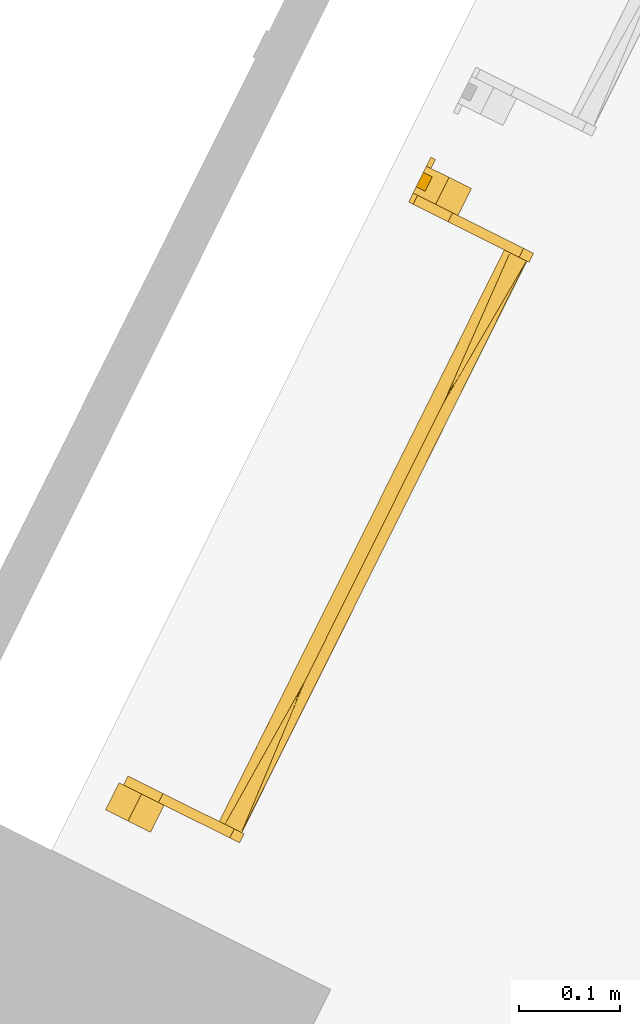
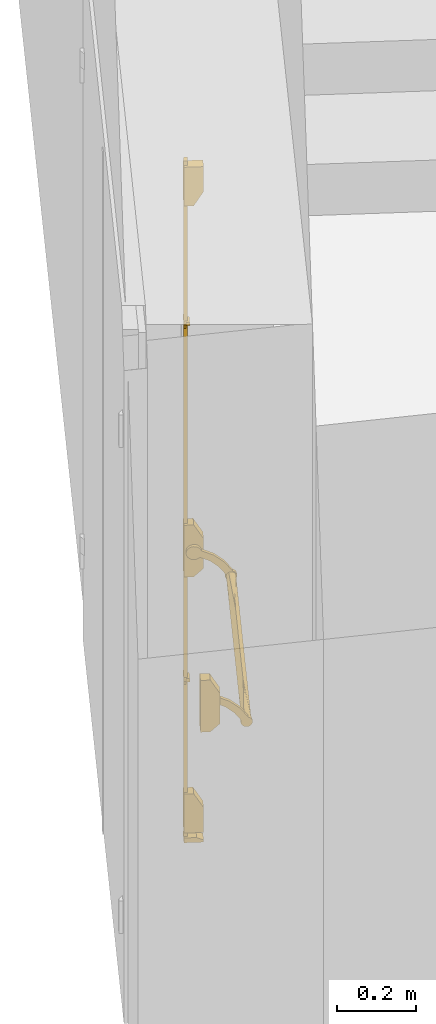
# One storey, part 30 of 91: 1 door.
"""IFC2X3 building model written with IfcOpenShell, lengths in metres."""

from ifc_helpers import new_model, entity, si_unit, converted_unit, derived_unit, direction, frame, origin, place, context, subcontext, project, spatial, faceted_brep, source, transform, mapped, material, material_list, type_object, type_shapes, element, save


model = new_model("IFC2X3")

# Units and contexts
model_context = context("Model", 3, precision=1e-05, world=origin(), true_north=direction((0.894925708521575, 0.446215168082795)))
context_of_model = context(None, 3, precision=1e-05, world=origin(), true_north=direction((0.894925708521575, 0.446215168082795)))
body_context = subcontext(model_context, "Body", "Model", "MODEL_VIEW")
ifc_project = project(units=[si_unit("LENGTHUNIT", "METRE"), si_unit("AREAUNIT", "SQUARE_METRE"), si_unit("VOLUMEUNIT", "CUBIC_METRE"), converted_unit("PLANEANGLEUNIT", "DEGREE", entity("IfcRatioMeasure", 0.0174532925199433), si_unit("PLANEANGLEUNIT", "RADIAN"), dimensions=[0, 0, 0, 0, 0, 0, 0]), si_unit("MASSUNIT", "GRAM", prefix="KILO"), si_unit("TIMEUNIT", "SECOND"), si_unit("FREQUENCYUNIT", "HERTZ"), si_unit("THERMODYNAMICTEMPERATUREUNIT", "DEGREE_CELSIUS"), derived_unit("THERMALTRANSMITTANCEUNIT", [(si_unit("MASSUNIT", "GRAM", prefix="KILO"), 1), (si_unit("THERMODYNAMICTEMPERATUREUNIT", "KELVIN"), -1), (si_unit("TIMEUNIT", "SECOND"), -3)]), derived_unit("VOLUMETRICFLOWRATEUNIT", [(si_unit("LENGTHUNIT", "METRE"), 3), (si_unit("TIMEUNIT", "SECOND"), -1)]), si_unit("ELECTRICCURRENTUNIT", "AMPERE"), si_unit("ELECTRICVOLTAGEUNIT", "VOLT"), si_unit("POWERUNIT", "WATT"), si_unit("FORCEUNIT", "NEWTON", prefix="KILO"), si_unit("ILLUMINANCEUNIT", "LUX"), si_unit("LUMINOUSFLUXUNIT", "LUMEN"), si_unit("LUMINOUSINTENSITYUNIT", "CANDELA"), si_unit("PRESSUREUNIT", "PASCAL")], contexts=[model_context, context_of_model])

# Site, building, storey
site_placement = place(None, frame((218.228324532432, 584.720189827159, 0.0), z_axis=(0.0, 0.0, 1.0), x_axis=(0.446215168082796, 0.894925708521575, 0.0)))
site = spatial("IfcSite", under=ifc_project, at=site_placement, Name="Default", CompositionType="ELEMENT")
building_placement = place(site_placement, origin())
building = spatial("IfcBuilding", under=site, at=building_placement, CompositionType="ELEMENT")
storey_placement = place(building_placement, origin())
storey = spatial("IfcBuildingStorey", under=building, at=storey_placement, Name="0 - Piano Terra", CompositionType="ELEMENT", Elevation=0.0)

# Door
ifc_material_1 = material(Name="Peinture - Gris fonçé")
ifc_material_2 = material(Name="Peinture - Gris")
ifc_material_list_1 = material_list([ifc_material_1, ifc_material_2])
ifc_material_list_2 = material_list([ifc_material_1, ifc_material_2])
door_style = type_object("IfcDoorStyle", Name="BarreAP", ConstructionType="NOTDEFINED", OperationType="NOTDEFINED", ParameterTakesPrecedence=False, Sizeable=False, material=ifc_material_list_2)
shared_shape = source(origin(), body_context, "Body", "Brep", [
    faceted_brep([(0.660000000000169, 0.110048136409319, 0.817251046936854), (0.660000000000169, 0.112636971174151, 0.815264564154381), (0.660000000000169, 0.115651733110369, 0.814015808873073), (0.660000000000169, 0.118886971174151, 0.813589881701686), (0.660000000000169, 0.122122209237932, 0.814015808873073), (0.660000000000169, 0.125136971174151, 0.815264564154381), (0.660000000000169, 0.127725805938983, 0.817251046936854), (0.660000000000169, 0.129712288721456, 0.819839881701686), (0.660000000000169, 0.130961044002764, 0.822854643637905), (0.660000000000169, 0.131386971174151, 0.826089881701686), (0.660000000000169, 0.130961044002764, 0.829325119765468), (0.660000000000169, 0.129712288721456, 0.832339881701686), (0.660000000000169, 0.127725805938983, 0.834928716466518), (0.660000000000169, 0.125136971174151, 0.836915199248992), (0.660000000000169, 0.122122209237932, 0.838163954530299), (0.660000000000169, 0.118886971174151, 0.838589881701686), (0.660000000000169, 0.115651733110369, 0.838163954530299), (0.660000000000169, 0.112636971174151, 0.836915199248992), (0.660000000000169, 0.110048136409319, 0.834928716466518), (0.660000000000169, 0.108061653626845, 0.832339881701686), (0.660000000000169, 0.106812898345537, 0.829325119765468), (0.660000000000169, 0.106386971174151, 0.826089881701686), (0.660000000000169, 0.106812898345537, 0.822854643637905), (0.660000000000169, 0.108061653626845, 0.819839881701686), (0.0250000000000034, 0.115651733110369, 0.838163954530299), (0.0250000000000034, 0.118886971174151, 0.838589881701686), (0.0250000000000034, 0.122122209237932, 0.838163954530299), (0.0250000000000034, 0.125136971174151, 0.836915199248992), (0.0250000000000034, 0.127725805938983, 0.834928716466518), (0.0250000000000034, 0.129712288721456, 0.832339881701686), (0.0250000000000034, 0.130961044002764, 0.829325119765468), (0.0250000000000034, 0.131386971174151, 0.826089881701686), (0.0250000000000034, 0.130961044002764, 0.822854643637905), (0.0250000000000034, 0.129712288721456, 0.819839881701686), (0.0250000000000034, 0.127725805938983, 0.817251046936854), (0.0250000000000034, 0.125136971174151, 0.815264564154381), (0.0250000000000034, 0.122122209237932, 0.814015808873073), (0.0250000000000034, 0.118886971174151, 0.813589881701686), (0.0250000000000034, 0.115651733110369, 0.814015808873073), (0.0250000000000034, 0.112636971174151, 0.815264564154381), (0.0250000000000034, 0.110048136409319, 0.817251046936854), (0.0250000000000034, 0.108061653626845, 0.819839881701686), (0.0250000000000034, 0.106812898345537, 0.822854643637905), (0.0250000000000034, 0.106386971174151, 0.826089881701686), (0.0250000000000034, 0.106812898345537, 0.829325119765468), (0.0250000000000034, 0.108061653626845, 0.832339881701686), (0.0250000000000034, 0.110048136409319, 0.834928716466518), (0.0250000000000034, 0.112636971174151, 0.836915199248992), (0.187822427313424, 0.117501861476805, 0.813666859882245), (0.148450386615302, 0.131386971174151, 0.826089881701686), (0.342500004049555, 0.117635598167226, 0.813652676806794), (0.413099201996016, 0.106386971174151, 0.826089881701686), (0.342500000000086, 0.106386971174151, 0.826089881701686), (0.271900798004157, 0.106386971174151, 0.826089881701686), (0.497177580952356, 0.117501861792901, 0.813666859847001), (0.53654961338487, 0.131386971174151, 0.826089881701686), (0.342500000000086, 0.131386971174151, 0.826089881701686), (0.413099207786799, 0.131386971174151, 0.826089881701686), (0.536549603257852, 0.106386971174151, 0.826089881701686), (0.14845039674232, 0.106386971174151, 0.826089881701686), (0.271900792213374, 0.131386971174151, 0.826089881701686), (0.497177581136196, 0.120272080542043, 0.83851290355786), (0.187822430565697, 0.120272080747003, 0.838512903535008), (0.342500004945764, 0.120138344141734, 0.838527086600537)], [[[0, 1, 2, 3, 4, 5, 6, 7, 8, 9, 10, 11, 12, 13, 14, 15, 16, 17, 18, 19, 20, 21, 22, 23]], [[24, 25, 26, 27, 28, 29, 30, 31, 32, 33, 34, 35, 36, 37, 38, 39, 40, 41, 42, 43, 44, 45, 46, 47]], [[38, 48, 39]], [[35, 48, 36]], [[34, 49, 35]], [[40, 39, 48]], [[50, 51, 52, 53]], [[2, 54, 3]], [[7, 6, 55]], [[34, 33, 49]], [[5, 54, 55]], [[48, 38, 37]], [[32, 49, 33]], [[31, 49, 32]], [[55, 9, 8]], [[56, 50, 48]], [[50, 56, 54]], [[54, 56, 57, 55]], [[54, 23, 22]], [[8, 7, 55]], [[36, 48, 37]], [[48, 41, 40]], [[41, 48, 42]], [[53, 42, 48]], [[53, 48, 50]], [[22, 21, 58, 51]], [[42, 53, 59, 43]], [[48, 49, 60, 56]], [[5, 55, 6]], [[54, 5, 4]], [[51, 54, 22]], [[54, 4, 3]], [[1, 0, 54]], [[54, 2, 1]], [[48, 35, 49]], [[54, 51, 50]], [[54, 0, 23]], [[61, 11, 10]], [[62, 47, 59]], [[57, 61, 10]], [[24, 47, 62]], [[52, 63, 62]], [[61, 12, 11]], [[58, 19, 18]], [[46, 45, 59]], [[26, 25, 62]], [[17, 61, 58]], [[44, 43, 59]], [[58, 21, 20]], [[14, 61, 15]], [[58, 20, 19]], [[61, 63, 52]], [[24, 62, 25]], [[59, 47, 46]], [[62, 28, 27]], [[61, 52, 51, 58]], [[63, 57, 56, 60]], [[44, 59, 45]], [[28, 62, 29]], [[29, 62, 30]], [[60, 30, 62]], [[60, 62, 63]], [[10, 9, 55, 57]], [[30, 60, 49, 31]], [[26, 62, 27]], [[17, 58, 18]], [[17, 16, 61]], [[61, 16, 15]], [[61, 13, 12]], [[13, 61, 14]], [[61, 57, 63]], [[62, 59, 53, 52]]]),
    faceted_brep([(0.660000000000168, 0.0117100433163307, 0.885054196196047), (0.660000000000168, 0.00829982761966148, 0.888995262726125), (0.660000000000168, 0.0060236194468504, 0.893683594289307), (0.660000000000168, 0.00503598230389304, 0.898800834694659), (0.660000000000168, 0.00540398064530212, 0.903999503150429), (0.660000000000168, 0.00710262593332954, 0.908926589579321), (0.660000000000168, 0.0100165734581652, 0.913247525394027), (0.660000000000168, 0.0139479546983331, 0.916668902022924), (0.660000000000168, 0.0186298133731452, 0.918958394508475), (0.660000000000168, 0.0237442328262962, 0.919960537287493), (0.660000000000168, 0.0289439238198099, 0.919607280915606), (0.660000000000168, 0.0338758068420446, 0.91792261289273), (0.660000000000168, 0.0382049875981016, 0.915020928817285), (0.660000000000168, 0.041637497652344, 0.911099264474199), (0.660000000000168, 0.0439402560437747, 0.906423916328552), (0.660000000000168, 0.0755453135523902, 0.891366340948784), (0.660000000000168, 0.10242643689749, 0.868938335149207), (0.660000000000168, 0.122902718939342, 0.840542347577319), (0.660000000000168, 0.126402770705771, 0.839071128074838), (0.660000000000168, 0.129421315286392, 0.836768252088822), (0.660000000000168, 0.13176496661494, 0.833781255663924), (0.660000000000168, 0.133283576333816, 0.830301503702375), (0.660000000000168, 0.133879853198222, 0.826551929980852), (0.660000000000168, 0.133515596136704, 0.822772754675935), (0.660000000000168, 0.132214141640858, 0.819206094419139), (0.660000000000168, 0.130058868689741, 0.816080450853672), (0.660000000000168, 0.127187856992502, 0.813596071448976), (0.660000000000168, 0.123785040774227, 0.811912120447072), (0.660000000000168, 0.120068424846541, 0.811136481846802), (0.660000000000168, 0.11627611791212, 0.811318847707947), (0.660000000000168, 0.112651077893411, 0.812447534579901), (0.660000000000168, 0.109425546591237, 0.814450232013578), (0.660000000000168, 0.106806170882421, 0.817198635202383), (0.660000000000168, 0.104960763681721, 0.820516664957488), (0.660000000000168, 0.10400755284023, 0.824191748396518), (0.660000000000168, 0.104007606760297, 0.827988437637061), (0.660000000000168, 0.10496092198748, 0.831663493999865), (0.660000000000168, 0.0879705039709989, 0.855114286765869), (0.660000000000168, 0.065856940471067, 0.873811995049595), (0.660000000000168, 0.039908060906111, 0.886667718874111), (0.660000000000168, 0.0359573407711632, 0.883268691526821), (0.660000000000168, 0.0312625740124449, 0.881005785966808), (0.660000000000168, 0.0261425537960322, 0.880032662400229), (0.660000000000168, 0.0209449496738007, 0.880415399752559), (0.660000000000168, 0.0160226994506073, 0.88212800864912), (0.670000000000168, 0.133515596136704, 0.822772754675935), (0.670000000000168, 0.133879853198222, 0.826551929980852), (0.670000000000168, 0.133283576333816, 0.830301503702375), (0.670000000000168, 0.13176496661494, 0.833781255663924), (0.670000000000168, 0.129421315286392, 0.836768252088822), (0.670000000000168, 0.126402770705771, 0.839071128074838), (0.670000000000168, 0.122902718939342, 0.840542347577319), (0.670000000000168, 0.10242643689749, 0.868938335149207), (0.670000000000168, 0.0755453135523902, 0.891366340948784), (0.670000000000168, 0.0439402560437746, 0.906423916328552), (0.670000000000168, 0.041637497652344, 0.911099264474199), (0.670000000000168, 0.0382049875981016, 0.915020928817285), (0.670000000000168, 0.0338758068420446, 0.91792261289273), (0.670000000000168, 0.0289439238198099, 0.919607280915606), (0.670000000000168, 0.0237442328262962, 0.919960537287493), (0.670000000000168, 0.0186298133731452, 0.918958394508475), (0.670000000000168, 0.0139479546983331, 0.916668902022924), (0.670000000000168, 0.0100165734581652, 0.913247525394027), (0.670000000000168, 0.00710262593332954, 0.908926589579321), (0.670000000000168, 0.00540398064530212, 0.903999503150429), (0.670000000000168, 0.00503598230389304, 0.898800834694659), (0.670000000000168, 0.0060236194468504, 0.893683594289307), (0.670000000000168, 0.00829982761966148, 0.888995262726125), (0.670000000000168, 0.0117100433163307, 0.885054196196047), (0.670000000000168, 0.0160226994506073, 0.88212800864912), (0.670000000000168, 0.0209449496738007, 0.880415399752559), (0.670000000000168, 0.0261425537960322, 0.880032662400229), (0.670000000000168, 0.0312625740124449, 0.881005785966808), (0.670000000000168, 0.0359573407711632, 0.883268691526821), (0.670000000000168, 0.039908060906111, 0.886667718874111), (0.670000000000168, 0.065856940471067, 0.873811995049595), (0.670000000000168, 0.0879705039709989, 0.855114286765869), (0.670000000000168, 0.10496092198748, 0.831663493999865), (0.670000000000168, 0.104007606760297, 0.827988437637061), (0.670000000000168, 0.10400755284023, 0.824191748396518), (0.670000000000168, 0.104960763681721, 0.820516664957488), (0.670000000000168, 0.106806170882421, 0.817198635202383), (0.670000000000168, 0.109425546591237, 0.814450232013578), (0.670000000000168, 0.112651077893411, 0.812447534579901), (0.670000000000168, 0.11627611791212, 0.811318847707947), (0.670000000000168, 0.120068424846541, 0.811136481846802), (0.670000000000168, 0.123785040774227, 0.811912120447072), (0.670000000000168, 0.127187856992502, 0.813596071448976), (0.670000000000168, 0.130058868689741, 0.816080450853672), (0.670000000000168, 0.132214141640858, 0.819206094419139)], [[[0, 1, 2, 3, 4, 5, 6, 7, 8, 9, 10, 11, 12, 13, 14, 15, 16, 17, 18, 19, 20, 21, 22, 23, 24, 25, 26, 27, 28, 29, 30, 31, 32, 33, 34, 35, 36, 37, 38, 39, 40, 41, 42, 43, 44]], [[45, 46, 47, 48, 49, 50, 51, 52, 53, 54, 55, 56, 57, 58, 59, 60, 61, 62, 63, 64, 65, 66, 67, 68, 69, 70, 71, 72, 73, 74, 75, 76, 77, 78, 79, 80, 81, 82, 83, 84, 85, 86, 87, 88, 89]], [[54, 14, 13, 55]], [[56, 12, 11, 57]], [[56, 55, 13, 12]], [[58, 57, 11, 10]], [[60, 59, 9, 8]], [[62, 61, 7, 6]], [[7, 61, 60, 8]], [[9, 59, 58, 10]], [[62, 6, 5, 63]], [[4, 64, 63, 5]], [[64, 4, 3, 65]], [[66, 2, 1, 67]], [[66, 65, 3, 2]], [[68, 67, 1, 0]], [[70, 69, 44, 43]], [[72, 71, 42, 41]], [[42, 71, 70, 43]], [[44, 69, 68, 0]], [[72, 41, 40, 73]], [[40, 39, 74, 73]], [[39, 38, 75, 74]], [[38, 37, 76, 75]], [[37, 36, 77, 76]], [[77, 36, 35, 78]], [[79, 34, 33, 80]], [[79, 78, 35, 34]], [[81, 80, 33, 32]], [[83, 82, 31, 30]], [[85, 84, 29, 28]], [[29, 84, 83, 30]], [[31, 82, 81, 32]], [[85, 28, 27, 86]], [[27, 26, 87, 86]], [[87, 26, 25, 88]], [[89, 24, 23, 45]], [[89, 88, 25, 24]], [[46, 45, 23, 22]], [[48, 47, 21, 20]], [[50, 49, 19, 18]], [[19, 49, 48, 20]], [[21, 47, 46, 22]], [[50, 18, 17, 51]], [[16, 52, 51, 17]], [[16, 15, 53, 52]], [[14, 54, 53, 15]]]),
    faceted_brep([(0.025, 0.109425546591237, 0.81445023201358), (0.025, 0.112651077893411, 0.812447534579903), (0.025, 0.11627611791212, 0.811318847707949), (0.025, 0.120068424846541, 0.811136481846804), (0.025, 0.123785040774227, 0.811912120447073), (0.025, 0.127187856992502, 0.813596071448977), (0.025, 0.130058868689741, 0.816080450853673), (0.025, 0.132214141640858, 0.819206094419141), (0.025, 0.133515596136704, 0.822772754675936), (0.025, 0.133879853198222, 0.826551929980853), (0.025, 0.133283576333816, 0.830301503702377), (0.025, 0.13176496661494, 0.833781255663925), (0.025, 0.129421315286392, 0.836768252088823), (0.025, 0.126402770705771, 0.839071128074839), (0.025, 0.122902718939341, 0.840542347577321), (0.025, 0.10242643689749, 0.868938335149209), (0.025, 0.0755453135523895, 0.891366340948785), (0.025, 0.0439402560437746, 0.906423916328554), (0.025, 0.041637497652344, 0.9110992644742), (0.025, 0.0382049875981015, 0.915020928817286), (0.025, 0.0338758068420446, 0.917922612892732), (0.025, 0.0289439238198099, 0.919607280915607), (0.025, 0.0237442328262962, 0.919960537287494), (0.025, 0.0186298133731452, 0.918958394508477), (0.025, 0.0139479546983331, 0.916668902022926), (0.025, 0.0100165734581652, 0.913247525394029), (0.025, 0.00710262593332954, 0.908926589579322), (0.025, 0.00540398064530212, 0.903999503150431), (0.025, 0.00503598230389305, 0.89880083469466), (0.025, 0.00602361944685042, 0.893683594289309), (0.025, 0.00829982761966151, 0.888995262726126), (0.025, 0.0117100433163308, 0.885054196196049), (0.025, 0.0160226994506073, 0.882128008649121), (0.025, 0.0209449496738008, 0.880415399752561), (0.025, 0.0261425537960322, 0.88003266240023), (0.025, 0.031262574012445, 0.881005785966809), (0.025, 0.0359573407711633, 0.883268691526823), (0.025, 0.0399080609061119, 0.886667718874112), (0.025, 0.0658569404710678, 0.873811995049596), (0.025, 0.0879705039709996, 0.85511428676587), (0.025, 0.10496092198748, 0.831663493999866), (0.025, 0.104007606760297, 0.827988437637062), (0.025, 0.10400755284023, 0.824191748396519), (0.025, 0.104960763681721, 0.82051666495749), (0.025, 0.106806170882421, 0.817198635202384), (0.015, 0.0139479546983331, 0.916668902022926), (0.015, 0.0186298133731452, 0.918958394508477), (0.015, 0.0237442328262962, 0.919960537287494), (0.015, 0.0289439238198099, 0.919607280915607), (0.015, 0.0338758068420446, 0.917922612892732), (0.015, 0.0382049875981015, 0.915020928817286), (0.015, 0.041637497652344, 0.9110992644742), (0.015, 0.0439402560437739, 0.906423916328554), (0.015, 0.0755453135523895, 0.891366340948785), (0.015, 0.10242643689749, 0.868938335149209), (0.015, 0.122902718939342, 0.84054234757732), (0.015, 0.126402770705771, 0.839071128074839), (0.015, 0.129421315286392, 0.836768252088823), (0.015, 0.13176496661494, 0.833781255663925), (0.015, 0.133283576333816, 0.830301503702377), (0.015, 0.133879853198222, 0.826551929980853), (0.015, 0.133515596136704, 0.822772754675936), (0.015, 0.132214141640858, 0.819206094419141), (0.015, 0.130058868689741, 0.816080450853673), (0.015, 0.127187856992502, 0.813596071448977), (0.015, 0.123785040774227, 0.811912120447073), (0.015, 0.120068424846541, 0.811136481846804), (0.015, 0.11627611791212, 0.811318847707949), (0.015, 0.112651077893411, 0.812447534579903), (0.015, 0.109425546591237, 0.81445023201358), (0.015, 0.106806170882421, 0.817198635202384), (0.015, 0.104960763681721, 0.82051666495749), (0.015, 0.10400755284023, 0.824191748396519), (0.015, 0.104007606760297, 0.827988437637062), (0.015, 0.10496092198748, 0.831663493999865), (0.015, 0.0879705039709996, 0.85511428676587), (0.015, 0.0658569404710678, 0.873811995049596), (0.015, 0.0399080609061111, 0.886667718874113), (0.015, 0.0359573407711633, 0.883268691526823), (0.015, 0.031262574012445, 0.881005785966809), (0.015, 0.0261425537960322, 0.88003266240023), (0.015, 0.0209449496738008, 0.880415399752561), (0.015, 0.0160226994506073, 0.882128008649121), (0.015, 0.0117100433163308, 0.885054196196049), (0.015, 0.00829982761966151, 0.888995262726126), (0.015, 0.00602361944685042, 0.893683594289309), (0.015, 0.00503598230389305, 0.89880083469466), (0.015, 0.00540398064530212, 0.903999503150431), (0.015, 0.00710262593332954, 0.908926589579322), (0.015, 0.0100165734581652, 0.913247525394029)], [[[0, 1, 2, 3, 4, 5, 6, 7, 8, 9, 10, 11, 12, 13, 14, 15, 16, 17, 18, 19, 20, 21, 22, 23, 24, 25, 26, 27, 28, 29, 30, 31, 32, 33, 34, 35, 36, 37, 38, 39, 40, 41, 42, 43, 44]], [[45, 46, 47, 48, 49, 50, 51, 52, 53, 54, 55, 56, 57, 58, 59, 60, 61, 62, 63, 64, 65, 66, 67, 68, 69, 70, 71, 72, 73, 74, 75, 76, 77, 78, 79, 80, 81, 82, 83, 84, 85, 86, 87, 88, 89]], [[16, 53, 52, 17]], [[16, 15, 54, 53]], [[14, 55, 54, 15]], [[55, 14, 13, 56]], [[57, 12, 11, 58]], [[57, 56, 13, 12]], [[59, 58, 11, 10]], [[61, 60, 9, 8]], [[63, 62, 7, 6]], [[7, 62, 61, 8]], [[9, 60, 59, 10]], [[63, 6, 5, 64]], [[5, 4, 65, 64]], [[65, 4, 3, 66]], [[67, 2, 1, 68]], [[67, 66, 3, 2]], [[69, 68, 1, 0]], [[71, 70, 44, 43]], [[73, 72, 42, 41]], [[42, 72, 71, 43]], [[44, 70, 69, 0]], [[73, 41, 40, 74]], [[40, 39, 75, 74]], [[39, 38, 76, 75]], [[38, 37, 77, 76]], [[77, 37, 36, 78]], [[79, 35, 34, 80]], [[79, 78, 36, 35]], [[81, 80, 34, 33]], [[83, 82, 32, 31]], [[85, 84, 30, 29]], [[30, 84, 83, 31]], [[32, 82, 81, 33]], [[85, 29, 28, 86]], [[27, 87, 86, 28]], [[87, 27, 26, 88]], [[89, 25, 24, 45]], [[89, 88, 26, 25]], [[46, 45, 24, 23]], [[48, 47, 22, 21]], [[50, 49, 20, 19]], [[20, 49, 48, 21]], [[22, 47, 46, 23]], [[50, 19, 18, 51]], [[18, 17, 52, 51]]]),
    faceted_brep([(0.700000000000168, 0.0500000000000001, 0.936698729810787), (0.700000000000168, 0.0250000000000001, 0.980000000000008), (0.700000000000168, 0.0, 0.980000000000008), (0.700000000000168, 0.0, 0.819999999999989), (0.700000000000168, 0.0250000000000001, 0.819999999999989), (0.700000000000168, 0.0500000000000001, 0.844999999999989), (0.670000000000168, 0.0500000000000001, 0.936698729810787), (0.670000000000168, 0.0500000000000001, 0.844999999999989), (0.670000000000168, 0.0250000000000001, 0.819999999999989), (0.670000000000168, 0.0, 0.819999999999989), (0.670000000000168, 0.0, 0.980000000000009), (0.670000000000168, 0.0250000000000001, 0.980000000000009)], [[[0, 1, 2, 3, 4, 5]], [[6, 7, 8, 9, 10, 11]], [[5, 7, 6, 0]], [[4, 8, 7, 5]], [[3, 9, 8, 4]], [[2, 10, 9, 3]], [[1, 11, 10, 2]], [[0, 6, 11, 1]]]),
    faceted_brep([(-0.0129999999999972, 0.005, 1.605), (-0.0249999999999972, 0.005, 1.605), (-0.0249999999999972, 0.0, 1.605), (-0.00799999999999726, 0.0, 1.605), (-0.00799999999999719, 0.01, 1.605), (0.00800000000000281, 0.01, 1.605), (0.00800000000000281, 0.0, 1.605), (0.0250000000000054, 0.0, 1.605), (0.0250000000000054, 0.005, 1.605), (0.013000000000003, 0.005, 1.605), (0.0130000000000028, 0.015, 1.605), (-0.0129999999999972, 0.015, 1.605), (-0.0129999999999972, 0.005, 1.595), (-0.0129999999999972, 0.015, 1.595), (0.0130000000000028, 0.015, 1.595), (0.013000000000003, 0.005, 1.595), (0.0250000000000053, 0.005, 1.595), (0.0250000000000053, 0.0, 1.595), (0.00800000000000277, 0.0, 1.595), (0.00800000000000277, 0.01, 1.595), (-0.00799999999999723, 0.01, 1.595), (-0.00799999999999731, 0.0, 1.595), (-0.0249999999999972, 0.0, 1.595), (-0.0249999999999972, 0.005, 1.595)], [[[0, 1, 2, 3, 4, 5, 6, 7, 8, 9, 10, 11]], [[12, 13, 14, 15, 16, 17, 18, 19, 20, 21, 22, 23]], [[11, 13, 12, 0]], [[10, 14, 13, 11]], [[9, 15, 14, 10]], [[8, 16, 15, 9]], [[7, 17, 16, 8]], [[6, 18, 17, 7]], [[5, 19, 18, 6]], [[4, 20, 19, 5]], [[3, 21, 20, 4]], [[2, 22, 21, 3]], [[1, 23, 22, 2]], [[0, 12, 23, 1]]]),
    faceted_brep([(0.015, 0.0500000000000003, 2.00830127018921), (0.015, 0.0500000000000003, 2.08499999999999), (0.015, 0.0, 2.08499999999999), (0.015, 0.0, 1.96499999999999), (0.015, 0.0250000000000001, 1.96499999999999), (-0.015, 0.0500000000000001, 0.106698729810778), (-0.015, 0.0500000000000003, 0.0300000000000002), (-0.015, 0.0, 0.0300000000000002), (-0.015, 0.0, 0.15), (-0.015, 0.0250000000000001, 0.15), (-0.015, 0.0250000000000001, 1.96499999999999), (-0.015, 0.0500000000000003, 2.00830127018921), (0.008, 0.0, 1.96499999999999), (0.008, 0.01, 1.96499999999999), (-0.008, 0.01, 1.96499999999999), (-0.008, 0.0, 1.96499999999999), (-0.015, 0.0, 1.96499999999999), (0.008, 0.0, 2.08499999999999), (0.008, 0.0, 2.1), (-0.008, 0.0, 2.1), (-0.008, 0.0, 2.08499999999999), (-0.015, 0.0, 2.08499999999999), (-0.008, 0.0, 0.98000000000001), (-0.015, 0.0, 0.98000000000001), (-0.015, 0.0, 0.819999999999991), (-0.008, 0.0, 0.819999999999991), (-0.008, 0.0, 0.15), (-0.008, 0.0, 0.0300000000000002), (-0.008, 0.0, 0.0149999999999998), (0.008, 0.0, 0.0149999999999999), (0.008, 0.0, 0.0300000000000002), (0.015, 0.0, 0.0300000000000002), (0.015, 0.0, 0.15), (0.008, 0.0, 0.15), (0.008, 0.0, 0.819999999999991), (0.015, 0.0, 0.819999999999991), (0.015, 0.0, 0.98000000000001), (0.008, 0.0, 0.98000000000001), (-0.015, 0.0500000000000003, 2.08499999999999), (-0.008, 0.01, 2.08499999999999), (0.008, 0.01, 2.08499999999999), (0.015, 0.0500000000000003, 0.0300000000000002), (0.015, 0.0500000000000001, 0.106698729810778), (0.008, 0.01, 0.0300000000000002), (-0.008, 0.01, 0.0300000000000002), (0.015, 0.0250000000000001, 0.15), (-0.008, 0.01, 0.15), (0.008, 0.01, 0.15), (0.008, 0.01, 2.1), (-0.008, 0.01, 2.1), (-0.008, 0.01, 0.0149999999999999), (0.008, 0.01, 0.0149999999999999), (0.015, 0.025, 0.98000000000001), (0.015, 0.025, 0.819999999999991), (0.015, 0.0500000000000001, 0.844999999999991), (0.015, 0.0500000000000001, 0.936698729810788), (-0.015, 0.025, 0.98000000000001), (-0.015, 0.0500000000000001, 0.936698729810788), (-0.015, 0.0500000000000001, 0.844999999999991), (-0.015, 0.025, 0.819999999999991), (0.008, 0.01, 0.819999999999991), (-0.008, 0.01, 0.819999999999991), (-0.008, 0.01, 0.98000000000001), (0.008, 0.01, 0.98000000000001)], [[[0, 1, 2, 3, 4]], [[5, 6, 7, 8, 9]], [[4, 10, 11, 0]], [[3, 12, 13, 14, 15, 16, 10, 4]], [[2, 17, 18, 19, 20, 21, 16, 15, 22, 23, 24, 25, 26, 8, 7, 27, 28, 29, 30, 31, 32, 33, 34, 35, 36, 37, 12, 3]], [[1, 38, 21, 20, 39, 40, 17, 2]], [[0, 11, 38, 1]], [[41, 6, 5, 42]], [[31, 30, 43, 44, 27, 7, 6, 41]], [[45, 9, 8, 26, 46, 47, 33, 32]], [[42, 5, 9, 45]], [[18, 48, 49, 19]], [[29, 28, 50, 51]], [[49, 39, 20, 19]], [[48, 40, 39, 49]], [[18, 17, 40, 48]], [[52, 36, 35, 53, 54, 55]], [[56, 57, 58, 59, 24, 23]], [[55, 57, 56, 52]], [[54, 58, 57, 55]], [[53, 59, 58, 54]], [[35, 34, 60, 61, 25, 24, 59, 53]], [[52, 56, 23, 22, 62, 63, 37, 36]], [[12, 37, 63, 13]], [[47, 60, 34, 33]], [[51, 43, 30, 29]], [[13, 63, 62, 14]], [[46, 61, 60, 47]], [[50, 44, 43, 51]], [[14, 62, 22, 15]], [[26, 25, 61, 46]], [[28, 27, 44, 50]], [[11, 10, 16, 21, 38]], [[42, 45, 32, 31, 41]]]),
    faceted_brep([(-0.00799999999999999, 0.01, 0.505), (0.00800000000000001, 0.01, 0.504999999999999), (0.00800000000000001, 0.0, 0.504999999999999), (0.0250000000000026, 0.0, 0.504999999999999), (0.0250000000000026, 0.005, 0.504999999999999), (0.013, 0.005, 0.504999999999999), (0.013, 0.015, 0.504999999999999), (-0.013, 0.015, 0.505), (-0.013, 0.005, 0.505), (-0.025, 0.005, 0.505), (-0.025, 0.0, 0.505), (-0.00800000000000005, 0.0, 0.505), (-0.00800000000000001, 0.01, 0.495), (-0.00800000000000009, 0.0, 0.495), (-0.025, 0.0, 0.495), (-0.025, 0.005, 0.495), (-0.013, 0.005, 0.495), (-0.013, 0.015, 0.495), (0.013, 0.015, 0.494999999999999), (0.013, 0.005, 0.494999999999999), (0.0250000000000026, 0.005, 0.494999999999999), (0.0250000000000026, 0.0, 0.494999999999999), (0.00799999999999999, 0.0, 0.494999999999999), (0.00799999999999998, 0.01, 0.494999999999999)], [[[0, 1, 2, 3, 4, 5, 6, 7, 8, 9, 10, 11]], [[12, 13, 14, 15, 16, 17, 18, 19, 20, 21, 22, 23]], [[11, 13, 12, 0]], [[10, 14, 13, 11]], [[9, 15, 14, 10]], [[8, 16, 15, 9]], [[7, 17, 16, 8]], [[6, 18, 17, 7]], [[5, 19, 18, 6]], [[4, 20, 19, 5]], [[3, 21, 20, 4]], [[2, 22, 21, 3]], [[1, 23, 22, 2]], [[0, 12, 23, 1]]]),
    faceted_brep([(0.015, 0.0322782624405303, 0.015), (0.015, 0.0, 0.0149999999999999), (0.015, 0.0, 0.0), (0.015, 0.0500000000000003, 0.0), (0.015, 0.0500000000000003, 0.00673621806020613), (-0.015, 0.0322782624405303, 0.015), (-0.015, 0.0500000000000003, 0.00673621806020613), (-0.015, 0.0500000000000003, 0.0), (-0.015, 0.0, 0.0), (-0.015, 0.0, 0.0149999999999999)], [[[0, 1, 2, 3, 4]], [[5, 6, 7, 8, 9]], [[4, 6, 5, 0]], [[3, 7, 6, 4]], [[2, 8, 7, 3]], [[1, 9, 8, 2]], [[0, 5, 9, 1]]]),
])
type_shapes(door_style, [shared_shape])
door_placement = place(storey_placement, frame((52.2259369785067, 6.26892100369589, 0.0), z_axis=(0.0, 0.0, 1.0), x_axis=(-1.0, 0.0, 0.0)))
element("IfcDoor", 1, at=door_placement, inside=storey, type_object=door_style, material=ifc_material_list_1, Name="BarreAP:BarreAP", ObjectType="BarreAP", OverallHeight=2.1, OverallWidth=0.760000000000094, context=body_context, shape_type="MappedRepresentation", body=[
    mapped(shared_shape, transform((0.0, 0.0, 0.0), scale=1.0)),
])

save(model, "model.ifc")
